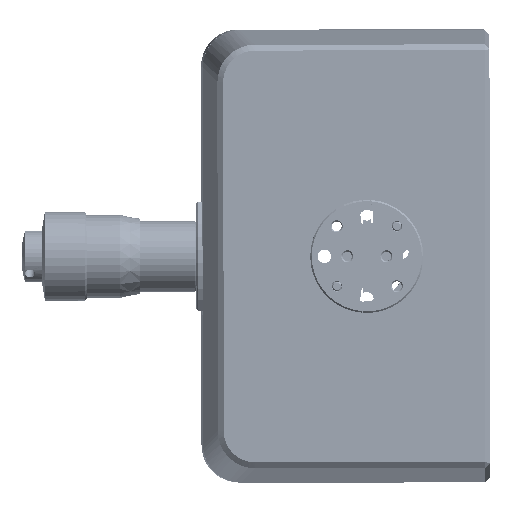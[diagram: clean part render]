
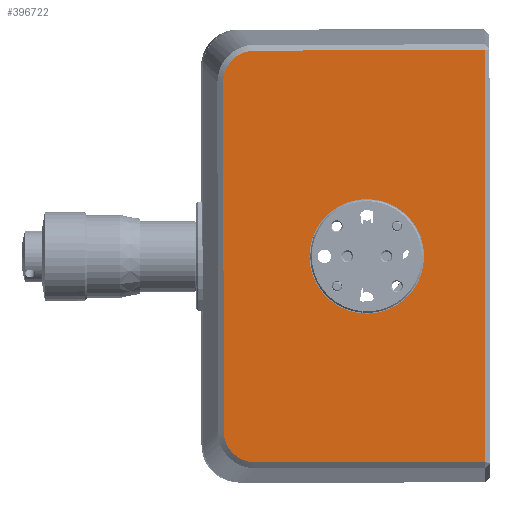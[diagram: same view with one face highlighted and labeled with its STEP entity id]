
A CAD part, left-side view. The second image highlights one B-rep face of the part: STEP entity #396722.
In plain terms, the highlighted planar face has unit normal (-1, -0.002, -0.001).
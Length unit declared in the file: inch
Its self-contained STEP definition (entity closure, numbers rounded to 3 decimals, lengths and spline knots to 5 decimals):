
#10165 = DIRECTION ( 'NONE',  ( -0.002, 1., -0.001 ) ) ;
#14007 = CARTESIAN_POINT ( 'NONE',  ( -1.5918, -8.39923, -1.31627 ) ) ;
#16170 = ORIENTED_EDGE ( 'NONE', *, *, #304274, .T. ) ;
#18238 = DIRECTION ( 'NONE',  ( -1., -0.002, -0.001 ) ) ;
#31490 = VERTEX_POINT ( 'NONE', #390756 ) ;
#33487 = DIRECTION ( 'NONE',  ( 1., 0.002, 0.001 ) ) ;
#37284 = CARTESIAN_POINT ( 'NONE',  ( -1.59253, -7.48101, -2.68254 ) ) ;
#40940 = EDGE_CURVE ( 'NONE', #31490, #330115, #67698, .T. ) ;
#41339 = EDGE_LOOP ( 'NONE', ( #447297, #434512 ) ) ;
#45226 = ORIENTED_EDGE ( 'NONE', *, *, #126886, .T. ) ;
#46531 = CARTESIAN_POINT ( 'NONE',  ( -1.59322, -7.61374, -0.93729 ) ) ;
#51437 = CIRCLE ( 'NONE', #300945, 0.38 ) ;
#55783 = LINE ( 'NONE', #438745, #84516 ) ;
#63206 = CARTESIAN_POINT ( 'NONE',  ( -1.59494, -6.84382, 0.0468 ) ) ;
#65469 = CARTESIAN_POINT ( 'NONE',  ( -1.59513, -6.66262, -0.13482 ) ) ;
#67698 = B_SPLINE_CURVE_WITH_KNOTS ( 'NONE', 3,
 ( #238546, #63206, #344548, #309902, #450748, #134771, #100086, #381409, #65469, #358066 ),
 .UNSPECIFIED., .F., .F.,
 ( 4, 2, 2, 2, 4 ),
 ( 0., 0.25, 0.5, 0.75, 1. ),
 .UNSPECIFIED. ) ;
#78291 = DIRECTION ( 'NONE',  ( -0.001, 0.001, 1. ) ) ;
#80200 = CIRCLE ( 'NONE', #87418, 0.38 ) ;
#82995 = VERTEX_POINT ( 'NONE', #401196 ) ;
#84516 = VECTOR ( 'NONE', #196452, 39.37008 ) ;
#86196 = ORIENTED_EDGE ( 'NONE', *, *, #40940, .T. ) ;
#87418 = AXIS2_PLACEMENT_3D ( 'NONE', #253623, #394251, #78291 ) ;
#87535 = CARTESIAN_POINT ( 'NONE',  ( -1.59283, -7.61473, -1.69728 ) ) ;
#87763 = VERTEX_POINT ( 'NONE', #271114 ) ;
#96687 = CARTESIAN_POINT ( 'NONE',  ( -1.59347, -6.87485, -2.68332 ) ) ;
#100086 = CARTESIAN_POINT ( 'NONE',  ( -1.59513, -6.68876, -0.05687 ) ) ;
#103503 = CARTESIAN_POINT ( 'NONE',  ( -1.59352, -6.84731, -2.68336 ) ) ;
#106774 = CARTESIAN_POINT ( 'NONE',  ( -1.59109, -8.401, -2.68134 ) ) ;
#107263 = FACE_BOUND ( 'NONE', #41339, .T. ) ;
#111105 = LINE ( 'NONE', #14007, #446038 ) ;
#114021 = EDGE_LOOP ( 'NONE', ( #180276, #392871, #163921, #16170, #86196, #45226 ) ) ;
#126886 = EDGE_CURVE ( 'NONE', #330115, #126917, #55783, .T. ) ;
#126917 = VERTEX_POINT ( 'NONE', #337086 ) ;
#134771 = CARTESIAN_POINT ( 'NONE',  ( -1.59511, -6.70421, -0.03361 ) ) ;
#139872 = CARTESIAN_POINT ( 'NONE',  ( -1.59511, -6.66266, -0.16236 ) ) ;
#141897 = DIRECTION ( 'NONE',  ( 0.001, -0.001, -1. ) ) ;
#163921 = ORIENTED_EDGE ( 'NONE', *, *, #361550, .T. ) ;
#165949 = CARTESIAN_POINT ( 'NONE',  ( -1.59365, -6.76936, -2.65723 ) ) ;
#172067 = AXIS2_PLACEMENT_3D ( 'NONE', #176497, #33487, #141897 ) ;
#176497 = CARTESIAN_POINT ( 'NONE',  ( -1.59324, -7.47924, -1.31746 ) ) ;
#177832 = EDGE_CURVE ( 'NONE', #126917, #82995, #451290, .T. ) ;
#180276 = ORIENTED_EDGE ( 'NONE', *, *, #177832, .T. ) ;
#196452 = DIRECTION ( 'NONE',  ( 0.001, -0.001, -1. ) ) ;
#210226 = DIRECTION ( 'NONE',  ( 0.002, -1., 0.001 ) ) ;
#222311 = CARTESIAN_POINT ( 'NONE',  ( -1.59395, -7.47747, 0.04762 ) ) ;
#238546 = CARTESIAN_POINT ( 'NONE',  ( -1.59489, -6.87131, 0.04683 ) ) ;
#253623 = CARTESIAN_POINT ( 'NONE',  ( -1.59303, -7.61424, -1.31728 ) ) ;
#269012 = VERTEX_POINT ( 'NONE', #46531 ) ;
#271114 = CARTESIAN_POINT ( 'NONE',  ( -1.59251, -8.39746, 0.04881 ) ) ;
#271768 = EDGE_CURVE ( 'NONE', #82995, #447388, #353125, .T. ) ;
#297279 = DIRECTION ( 'NONE',  ( -0.001, 0.001, 1. ) ) ;
#300945 = AXIS2_PLACEMENT_3D ( 'NONE', #407935, #18238, #297279 ) ;
#304274 = EDGE_CURVE ( 'NONE', #87763, #31490, #326040, .T. ) ;
#306541 = CARTESIAN_POINT ( 'NONE',  ( -1.5937, -6.7461, -2.64177 ) ) ;
#308783 = CARTESIAN_POINT ( 'NONE',  ( -1.59389, -6.66569, -2.50216 ) ) ;
#309902 = CARTESIAN_POINT ( 'NONE',  ( -1.59505, -6.76588, 0.02046 ) ) ;
#310236 = PLANE ( 'NONE',  #172067 ) ;
#311049 = CARTESIAN_POINT ( 'NONE',  ( -1.59378, -6.70755, -2.60331 ) ) ;
#312145 = VECTOR ( 'NONE', #210226, 39.37008 ) ;
#315558 = CARTESIAN_POINT ( 'NONE',  ( -1.59387, -6.67116, -2.52965 ) ) ;
#318741 = VERTEX_POINT ( 'NONE', #87535 ) ;
#326040 = LINE ( 'NONE', #222311, #392181 ) ;
#330115 = VERTEX_POINT ( 'NONE', #139872 ) ;
#337086 = CARTESIAN_POINT ( 'NONE',  ( -1.59391, -6.66566, -2.47467 ) ) ;
#344548 = CARTESIAN_POINT ( 'NONE',  ( -1.59498, -6.81633, 0.04132 ) ) ;
#347129 = FACE_OUTER_BOUND ( 'NONE', #114021, .T. ) ;
#347942 = CARTESIAN_POINT ( 'NONE',  ( -1.59391, -6.66566, -2.47467 ) ) ;
#353125 = LINE ( 'NONE', #37284, #312145 ) ;
#358066 = CARTESIAN_POINT ( 'NONE',  ( -1.59511, -6.66266, -0.16236 ) ) ;
#361550 = EDGE_CURVE ( 'NONE', #447388, #87763, #111105, .T. ) ;
#381409 = CARTESIAN_POINT ( 'NONE',  ( -1.59513, -6.66802, -0.10736 ) ) ;
#390756 = CARTESIAN_POINT ( 'NONE',  ( -1.59489, -6.87131, 0.04683 ) ) ;
#392181 = VECTOR ( 'NONE', #10165, 39.37008 ) ;
#392366 = DIRECTION ( 'NONE',  ( -0.001, 0.001, 1. ) ) ;
#392871 = ORIENTED_EDGE ( 'NONE', *, *, #271768, .T. ) ;
#394251 = DIRECTION ( 'NONE',  ( -1., -0.002, -0.001 ) ) ;
#396722 = ADVANCED_FACE ( 'NONE', ( #107263, #347129 ), #310236, .F. ) ;
#401196 = CARTESIAN_POINT ( 'NONE',  ( -1.59347, -6.87485, -2.68332 ) ) ;
#403946 = EDGE_CURVE ( 'NONE', #318741, #269012, #80200, .T. ) ;
#407935 = CARTESIAN_POINT ( 'NONE',  ( -1.59303, -7.61424, -1.31728 ) ) ;
#434512 = ORIENTED_EDGE ( 'NONE', *, *, #403946, .F. ) ;
#435745 = EDGE_CURVE ( 'NONE', #269012, #318741, #51437, .T. ) ;
#438745 = CARTESIAN_POINT ( 'NONE',  ( -1.59451, -6.66416, -1.31852 ) ) ;
#446038 = VECTOR ( 'NONE', #392366, 39.37008 ) ;
#447297 = ORIENTED_EDGE ( 'NONE', *, *, #435745, .F. ) ;
#447388 = VERTEX_POINT ( 'NONE', #106774 ) ;
#449593 = CARTESIAN_POINT ( 'NONE',  ( -1.59381, -6.69203, -2.5801 ) ) ;
#450748 = CARTESIAN_POINT ( 'NONE',  ( -1.59507, -6.74267, 0.00494 ) ) ;
#451290 = B_SPLINE_CURVE_WITH_KNOTS ( 'NONE', 3,
 ( #347942, #308783, #315558, #449593, #311049, #306541, #165949, #454150, #103503, #96687 ),
 .UNSPECIFIED., .F., .F.,
 ( 4, 2, 2, 2, 4 ),
 ( 0., 0.25, 0.5, 0.75, 1. ),
 .UNSPECIFIED. ) ;
#454150 = CARTESIAN_POINT ( 'NONE',  ( -1.59356, -6.81985, -2.67797 ) ) ;
